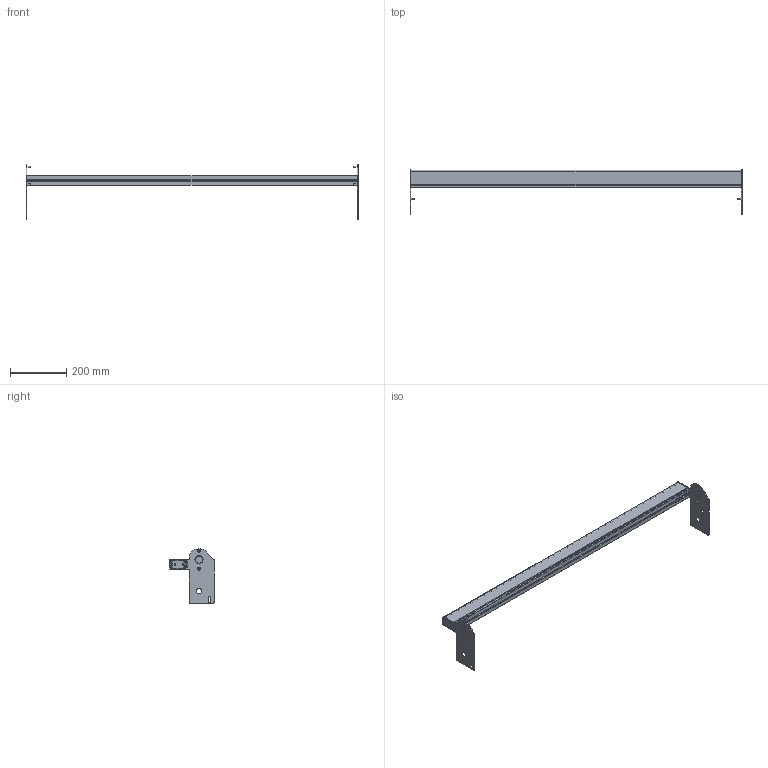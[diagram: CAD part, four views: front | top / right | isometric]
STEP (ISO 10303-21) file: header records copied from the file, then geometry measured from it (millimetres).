
FILE_DESCRIPTION((''),'2;1');
FILE_NAME('350712-46_ASM','2023-03-22T',('jenni.wallner'),(''),'PRO/ENGINEER BY PARAMETRIC TECHNOLOGY CORPORATION, 2012420','PRO/ENGINEER BY PARAMETRIC TECHNOLOGY CORPORATION, 2012420','');
FILE_SCHEMA(('CONFIG_CONTROL_DESIGN'));
Length unit declared in the file: inch
Products named in the file (6): 350669-46; 350667; 350668; 930412M; 930516M; 350712-46_ASM
Assembly tree (11 placements, depth 2):
  350712-46_ASM
    350669-46
    350667
    350668
    930412M  x4
    930516M  x4
Bounding box: 1180.74 x 158.09 x 193.27 mm (x, y, z)
Volume: 1038330.5 mm3; surface area: 673118 mm2
Topology: 11 solids, 11 shells, 334 faces, 872 edges, 568 vertices
Faces by surface type: plane 150, cylinder 136, cone 48
Entity records: 7773 total; most frequent: DIRECTION 1398, CARTESIAN_POINT 1317, ORIENTED_EDGE 1288, EDGE_CURVE 644, AXIS2_PLACEMENT_3D 505, VERTEX_POINT 424, VECTOR 388, LINE 388
